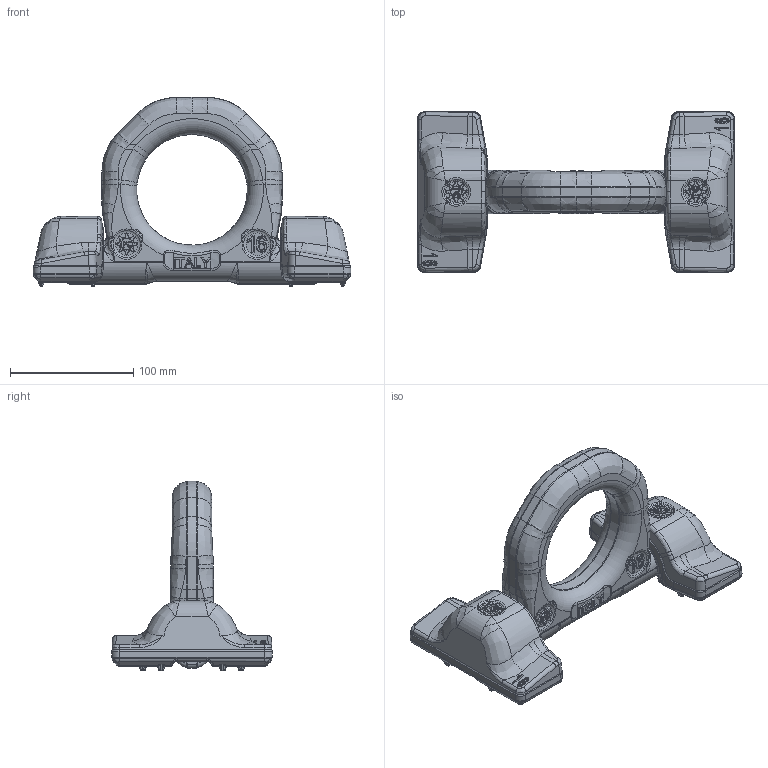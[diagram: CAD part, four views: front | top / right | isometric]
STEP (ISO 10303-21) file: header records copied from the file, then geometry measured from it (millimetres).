
FILE_DESCRIPTION((''),'2;1');
FILE_NAME('SFA-2911-0000_SFA-2612-0000_inclinazione_0°','2013-12-04T16:41:01',('Luca'),(''),'CADlook_v9.0','Cimatron E 8.0','');
FILE_SCHEMA(('AUTOMOTIVE_DESIGN { 1 2 10303 214 0 1 1 1 }'));
Length unit declared in the file: millimetre
Bounding box: 258 x 130.5 x 153.65 mm (x, y, z)
Volume: 843467 mm3; surface area: 105442.7 mm2
Topology: 3 solids, 3 shells, 1619 faces, 4027 edges, 2407 vertices
Faces by surface type: bspline 736, plane 416, cylinder 289, torus 96, cone 74, sphere 8
Full cylindrical faces by diameter (mm): 89.7 x1
Entity records: 143521 total; most frequent: CARTESIAN_POINT 97102, ORIENTED_EDGE 7950, DIRECTION 5541, EDGE_CURVE 3975, VERTEX_POINT 2407, AXIS2_PLACEMENT_3D 2106, EDGE_LOOP 1666, COLOUR_RGB 1622
